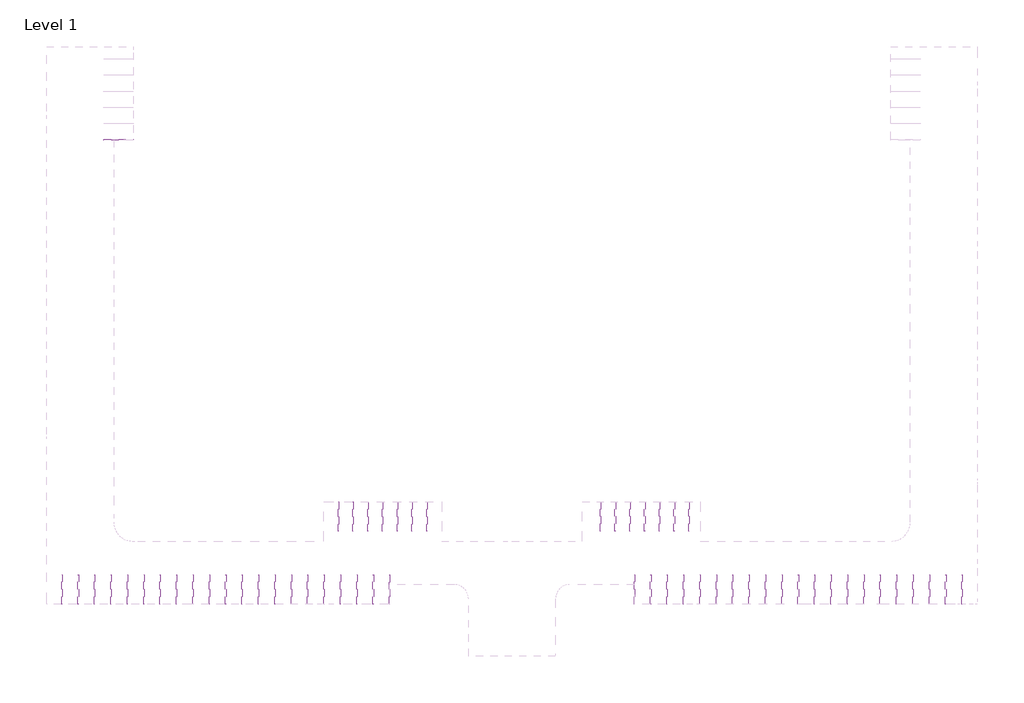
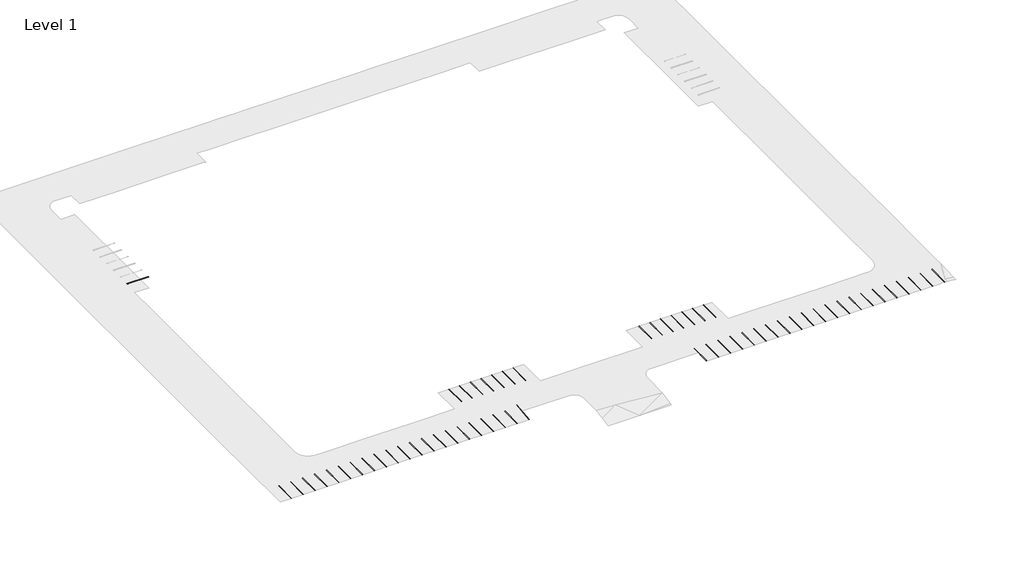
# One storey, part 1 of 2: 57 proxies.
"""IFC4 building model written with IfcOpenShell, lengths in millimetres."""

from ifc_helpers import new_model, si_unit, origin, place, context, project, spatial, transform, mapped, element, save
from components import parking_space_9_x_18_90_deg_9fe051ab, parking_space_9_x_18_90_deg_b8b21359

model = new_model("IFC4")

# Units and contexts
model_context = context("Model", 3, world=origin())
ifc_project = project(units=[si_unit("LENGTHUNIT", "METRE", prefix="MILLI")], contexts=[model_context])

# Site, building, storey
site = spatial("IfcSite", under=ifc_project)
building = spatial("IfcBuilding", under=site)
storey = spatial("IfcBuildingStorey", under=building, Name="Level 1", Elevation=0.0)

# Proxies
placement = place(None, origin())
parking_space_9_x_18_90_deg_shape = parking_space_9_x_18_90_deg_9fe051ab(model_context)
element("IfcBuildingElementProxy", 1, Name="Parking Space : 9' x 18' - 90 deg", ObjectType="Parking Space : 9' x 18' - 90 deg", at=placement, inside=storey, context=model_context, shape_type="MappedRepresentation", body=[
    mapped(parking_space_9_x_18_90_deg_shape, transform((95756.0170127, -132718.9664068, 3048.7803686), x_axis=(-1.0, 0.0, 0.0), y_axis=(0.0, -1.0, 0.0), z_axis=(0.0, 0.0, 1.0))),
])
element("IfcBuildingElementProxy", 2, Name="Parking Space : 9' x 18' - 90 deg", ObjectType="Parking Space : 9' x 18' - 90 deg", at=placement, inside=storey, context=model_context, shape_type="MappedRepresentation", body=[
    mapped(parking_space_9_x_18_90_deg_shape, transform((98499.2170127, -132718.9664068, 3048.7803686), x_axis=(-1.0, 0.0, 0.0), y_axis=(0.0, -1.0, 0.0), z_axis=(0.0, 0.0, 1.0))),
])
element("IfcBuildingElementProxy", 3, Name="Parking Space : 9' x 18' - 90 deg", ObjectType="Parking Space : 9' x 18' - 90 deg", at=placement, inside=storey, context=model_context, shape_type="MappedRepresentation", body=[
    mapped(parking_space_9_x_18_90_deg_shape, transform((101242.4170127, -132718.9664068, 3048.7803686), x_axis=(-1.0, 0.0, 0.0), y_axis=(0.0, -1.0, 0.0), z_axis=(0.0, 0.0, 1.0))),
])
element("IfcBuildingElementProxy", 4, Name="Parking Space : 9' x 18' - 90 deg", ObjectType="Parking Space : 9' x 18' - 90 deg", at=placement, inside=storey, context=model_context, shape_type="MappedRepresentation", body=[
    mapped(parking_space_9_x_18_90_deg_shape, transform((103985.6170127, -132718.9664068, 3048.7803686), x_axis=(-1.0, 0.0, 0.0), y_axis=(0.0, -1.0, 0.0), z_axis=(0.0, 0.0, 1.0))),
])
element("IfcBuildingElementProxy", 5, Name="Parking Space : 9' x 18' - 90 deg", ObjectType="Parking Space : 9' x 18' - 90 deg", at=placement, inside=storey, context=model_context, shape_type="MappedRepresentation", body=[
    mapped(parking_space_9_x_18_90_deg_shape, transform((106728.8170127, -132718.9664068, 3048.7803686), x_axis=(-1.0, 0.0, 0.0), y_axis=(0.0, -1.0, 0.0), z_axis=(0.0, 0.0, 1.0))),
])
element("IfcBuildingElementProxy", 6, Name="Parking Space : 9' x 18' - 90 deg", ObjectType="Parking Space : 9' x 18' - 90 deg", at=placement, inside=storey, context=model_context, shape_type="MappedRepresentation", body=[
    mapped(parking_space_9_x_18_90_deg_shape, transform((109472.0170127, -132718.9664068, 3048.7803686), x_axis=(-1.0, 0.0, 0.0), y_axis=(0.0, -1.0, 0.0), z_axis=(0.0, 0.0, 1.0))),
])
element("IfcBuildingElementProxy", 7, Name="Parking Space : 9' x 18' - 90 deg", ObjectType="Parking Space : 9' x 18' - 90 deg", at=placement, inside=storey, context=model_context, shape_type="MappedRepresentation", body=[
    mapped(parking_space_9_x_18_90_deg_shape, transform((112215.2170127, -132718.9664068, 3048.7803686), x_axis=(-1.0, 0.0, 0.0), y_axis=(0.0, -1.0, 0.0), z_axis=(0.0, 0.0, 1.0))),
])
element("IfcBuildingElementProxy", 8, Name="Parking Space : 9' x 18' - 90 deg", ObjectType="Parking Space : 9' x 18' - 90 deg", at=placement, inside=storey, context=model_context, shape_type="MappedRepresentation", body=[
    mapped(parking_space_9_x_18_90_deg_shape, transform((8862.6170127, -65417.6134629, 6097.5607373), x_axis=(0.0, 1.0, 0.0), y_axis=(-1.0, 0.0, 0.0), z_axis=(0.0, 0.0, 1.0))),
])
element("IfcBuildingElementProxy", 9, Name="Parking Space : 9' x 18' - 90 deg", ObjectType="Parking Space : 9' x 18' - 90 deg", at=placement, inside=storey, context=model_context, shape_type="MappedRepresentation", body=[
    mapped(parking_space_9_x_18_90_deg_shape, transform((163015.2170127, -151779.2506241, 3067.0768021), x_axis=(0.9982600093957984, 0.0, -0.05896569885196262), y_axis=(0.0013117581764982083, 0.9997525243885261, 0.022207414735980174), z_axis=(0.058951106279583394, -0.022246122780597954, 0.9980129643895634))),
])
element("IfcBuildingElementProxy", 10, Name="Parking Space : 9' x 18' - 90 deg", ObjectType="Parking Space : 9' x 18' - 90 deg", at=placement, inside=storey, context=model_context, shape_type="MappedRepresentation", body=[
    mapped(parking_space_9_x_18_90_deg_shape, transform((159967.2170127, -151779.2506241, 3048.7803686), x_axis=(1.0, 0.0, 0.0), y_axis=(0.0, 1.0, 0.0), z_axis=(0.0, 0.0, 1.0))),
])
element("IfcBuildingElementProxy", 11, Name="Parking Space : 9' x 18' - 90 deg", ObjectType="Parking Space : 9' x 18' - 90 deg", at=placement, inside=storey, context=model_context, shape_type="MappedRepresentation", body=[
    mapped(parking_space_9_x_18_90_deg_shape, transform((156919.2170127, -151779.2506241, 3048.7803686), x_axis=(1.0, 0.0, 0.0), y_axis=(0.0, 1.0, 0.0), z_axis=(0.0, 0.0, 1.0))),
])
element("IfcBuildingElementProxy", 12, Name="Parking Space : 9' x 18' - 90 deg", ObjectType="Parking Space : 9' x 18' - 90 deg", at=placement, inside=storey, context=model_context, shape_type="MappedRepresentation", body=[
    mapped(parking_space_9_x_18_90_deg_shape, transform((153871.2170127, -151779.2506241, 3048.7803686), x_axis=(1.0, 0.0, 0.0), y_axis=(0.0, 1.0, 0.0), z_axis=(0.0, 0.0, 1.0))),
])
element("IfcBuildingElementProxy", 13, Name="Parking Space : 9' x 18' - 90 deg", ObjectType="Parking Space : 9' x 18' - 90 deg", at=placement, inside=storey, context=model_context, shape_type="MappedRepresentation", body=[
    mapped(parking_space_9_x_18_90_deg_shape, transform((150823.2170127, -151779.2506241, 3048.7803686), x_axis=(1.0, 0.0, 0.0), y_axis=(0.0, 1.0, 0.0), z_axis=(0.0, 0.0, 1.0))),
])
element("IfcBuildingElementProxy", 14, Name="Parking Space : 9' x 18' - 90 deg", ObjectType="Parking Space : 9' x 18' - 90 deg", at=placement, inside=storey, context=model_context, shape_type="MappedRepresentation", body=[
    mapped(parking_space_9_x_18_90_deg_shape, transform((147775.2170127, -151779.2506241, 3048.7803686), x_axis=(1.0, 0.0, 0.0), y_axis=(0.0, 1.0, 0.0), z_axis=(0.0, 0.0, 1.0))),
])
element("IfcBuildingElementProxy", 15, Name="Parking Space : 9' x 18' - 90 deg", ObjectType="Parking Space : 9' x 18' - 90 deg", at=placement, inside=storey, context=model_context, shape_type="MappedRepresentation", body=[
    mapped(parking_space_9_x_18_90_deg_shape, transform((144727.2170127, -151779.2506241, 3048.7803686), x_axis=(1.0, 0.0, 0.0), y_axis=(0.0, 1.0, 0.0), z_axis=(0.0, 0.0, 1.0))),
])
element("IfcBuildingElementProxy", 16, Name="Parking Space : 9' x 18' - 90 deg", ObjectType="Parking Space : 9' x 18' - 90 deg", at=placement, inside=storey, context=model_context, shape_type="MappedRepresentation", body=[
    mapped(parking_space_9_x_18_90_deg_shape, transform((141679.2170127, -151779.2506241, 3048.7803686), x_axis=(1.0, 0.0, 0.0), y_axis=(0.0, 1.0, 0.0), z_axis=(0.0, 0.0, 1.0))),
])
element("IfcBuildingElementProxy", 17, Name="Parking Space : 9' x 18' - 90 deg", ObjectType="Parking Space : 9' x 18' - 90 deg", at=placement, inside=storey, context=model_context, shape_type="MappedRepresentation", body=[
    mapped(parking_space_9_x_18_90_deg_shape, transform((138631.2170127, -151779.2506241, 3048.7803686), x_axis=(1.0, 0.0, 0.0), y_axis=(0.0, 1.0, 0.0), z_axis=(0.0, 0.0, 1.0))),
])
element("IfcBuildingElementProxy", 18, Name="Parking Space : 9' x 18' - 90 deg", ObjectType="Parking Space : 9' x 18' - 90 deg", at=placement, inside=storey, context=model_context, shape_type="MappedRepresentation", body=[
    mapped(parking_space_9_x_18_90_deg_shape, transform((135583.2170127, -151779.2506241, 3048.7803686), x_axis=(1.0, 0.0, 0.0), y_axis=(0.0, 1.0, 0.0), z_axis=(0.0, 0.0, 1.0))),
])
element("IfcBuildingElementProxy", 19, Name="Parking Space : 9' x 18' - 90 deg", ObjectType="Parking Space : 9' x 18' - 90 deg", at=placement, inside=storey, context=model_context, shape_type="MappedRepresentation", body=[
    mapped(parking_space_9_x_18_90_deg_shape, transform((132535.2170127, -151779.2506241, 3048.7803686), x_axis=(1.0, 0.0, 0.0), y_axis=(0.0, 1.0, 0.0), z_axis=(0.0, 0.0, 1.0))),
])
element("IfcBuildingElementProxy", 20, Name="Parking Space : 9' x 18' - 90 deg", ObjectType="Parking Space : 9' x 18' - 90 deg", at=placement, inside=storey, context=model_context, shape_type="MappedRepresentation", body=[
    mapped(parking_space_9_x_18_90_deg_shape, transform((129487.2170127, -151779.2506241, 3048.7803686), x_axis=(1.0, 0.0, 0.0), y_axis=(0.0, 1.0, 0.0), z_axis=(0.0, 0.0, 1.0))),
])
element("IfcBuildingElementProxy", 21, Name="Parking Space : 9' x 18' - 90 deg", ObjectType="Parking Space : 9' x 18' - 90 deg", at=placement, inside=storey, context=model_context, shape_type="MappedRepresentation", body=[
    mapped(parking_space_9_x_18_90_deg_shape, transform((126439.2170127, -151779.2506241, 3048.7803686), x_axis=(1.0, 0.0, 0.0), y_axis=(0.0, 1.0, 0.0), z_axis=(0.0, 0.0, 1.0))),
])
element("IfcBuildingElementProxy", 22, Name="Parking Space : 9' x 18' - 90 deg", ObjectType="Parking Space : 9' x 18' - 90 deg", at=placement, inside=storey, context=model_context, shape_type="MappedRepresentation", body=[
    mapped(parking_space_9_x_18_90_deg_shape, transform((123391.2170127, -151779.2506241, 3048.7803686), x_axis=(1.0, 0.0, 0.0), y_axis=(0.0, 1.0, 0.0), z_axis=(0.0, 0.0, 1.0))),
])
element("IfcBuildingElementProxy", 23, Name="Parking Space : 9' x 18' - 90 deg", ObjectType="Parking Space : 9' x 18' - 90 deg", at=placement, inside=storey, context=model_context, shape_type="MappedRepresentation", body=[
    mapped(parking_space_9_x_18_90_deg_shape, transform((120343.2170127, -151779.2506241, 3048.7803686), x_axis=(1.0, 0.0, 0.0), y_axis=(0.0, 1.0, 0.0), z_axis=(0.0, 0.0, 1.0))),
])
element("IfcBuildingElementProxy", 24, Name="Parking Space : 9' x 18' - 90 deg", ObjectType="Parking Space : 9' x 18' - 90 deg", at=placement, inside=storey, context=model_context, shape_type="MappedRepresentation", body=[
    mapped(parking_space_9_x_18_90_deg_shape, transform((117295.2170127, -151779.2506241, 3048.7803686), x_axis=(1.0, 0.0, 0.0), y_axis=(0.0, 1.0, 0.0), z_axis=(0.0, 0.0, 1.0))),
])
element("IfcBuildingElementProxy", 25, Name="Parking Space : 9' x 18' - 90 deg", ObjectType="Parking Space : 9' x 18' - 90 deg", at=placement, inside=storey, context=model_context, shape_type="MappedRepresentation", body=[
    mapped(parking_space_9_x_18_90_deg_shape, transform((114247.2170127, -151779.2506241, 3048.7803686), x_axis=(1.0, 0.0, 0.0), y_axis=(0.0, 1.0, 0.0), z_axis=(0.0, 0.0, 1.0))),
])
element("IfcBuildingElementProxy", 26, Name="Parking Space : 9' x 18' - 90 deg", ObjectType="Parking Space : 9' x 18' - 90 deg", at=placement, inside=storey, context=model_context, shape_type="MappedRepresentation", body=[
    mapped(parking_space_9_x_18_90_deg_shape, transform((111199.2170127, -151779.2506241, 3048.7803686), x_axis=(1.0, 0.0, 0.0), y_axis=(0.0, 1.0, 0.0), z_axis=(0.0, 0.0, 1.0))),
])
element("IfcBuildingElementProxy", 27, Name="Parking Space : 9' x 18' - 90 deg", ObjectType="Parking Space : 9' x 18' - 90 deg", at=placement, inside=storey, context=model_context, shape_type="MappedRepresentation", body=[
    mapped(parking_space_9_x_18_90_deg_shape, transform((108151.2170127, -151779.2506241, 3048.7803686), x_axis=(1.0, 0.0, 0.0), y_axis=(0.0, 1.0, 0.0), z_axis=(0.0, 0.0, 1.0))),
])
element("IfcBuildingElementProxy", 28, Name="Parking Space : 9' x 18' - 90 deg", ObjectType="Parking Space : 9' x 18' - 90 deg", at=placement, inside=storey, context=model_context, shape_type="MappedRepresentation", body=[
    mapped(parking_space_9_x_18_90_deg_shape, transform((105103.2170127, -151779.2506241, 3048.7803686), x_axis=(1.0, 0.0, 0.0), y_axis=(0.0, 1.0, 0.0), z_axis=(0.0, 0.0, 1.0))),
])
element("IfcBuildingElementProxy", 29, Name="Parking Space : 9' x 18' - 90 deg", ObjectType="Parking Space : 9' x 18' - 90 deg", at=placement, inside=storey, context=model_context, shape_type="MappedRepresentation", body=[
    mapped(parking_space_9_x_18_90_deg_shape, transform((102055.2170127, -151779.2506241, 3048.7803686), x_axis=(1.0, 0.0, 0.0), y_axis=(0.0, 1.0, 0.0), z_axis=(0.0, 0.0, 1.0))),
])
parking_space_9_x_18_90_deg_2_shape = parking_space_9_x_18_90_deg_b8b21359(model_context)
element("IfcBuildingElementProxy", 30, Name="Parking Space : 9' x 18' - 90 deg", ObjectType="Parking Space : 9' x 18' - 90 deg", at=placement, inside=storey, context=model_context, shape_type="MappedRepresentation", body=[
    mapped(parking_space_9_x_18_90_deg_2_shape, transform((63447.2170127, -132769.7664068, 3048.7803686), x_axis=(1.0, 0.0, 0.0), y_axis=(0.0, 1.0, 0.0), z_axis=(0.0, 0.0, 1.0))),
])
element("IfcBuildingElementProxy", 31, Name="Parking Space : 9' x 18' - 90 deg", ObjectType="Parking Space : 9' x 18' - 90 deg", at=placement, inside=storey, context=model_context, shape_type="MappedRepresentation", body=[
    mapped(parking_space_9_x_18_90_deg_2_shape, transform((60704.0170127, -132769.7664068, 3048.7803686), x_axis=(1.0, 0.0, 0.0), y_axis=(0.0, 1.0, 0.0), z_axis=(0.0, 0.0, 1.0))),
])
element("IfcBuildingElementProxy", 32, Name="Parking Space : 9' x 18' - 90 deg", ObjectType="Parking Space : 9' x 18' - 90 deg", at=placement, inside=storey, context=model_context, shape_type="MappedRepresentation", body=[
    mapped(parking_space_9_x_18_90_deg_2_shape, transform((57960.8170127, -132769.7664068, 3048.7803686), x_axis=(1.0, 0.0, 0.0), y_axis=(0.0, 1.0, 0.0), z_axis=(0.0, 0.0, 1.0))),
])
element("IfcBuildingElementProxy", 33, Name="Parking Space : 9' x 18' - 90 deg", ObjectType="Parking Space : 9' x 18' - 90 deg", at=placement, inside=storey, context=model_context, shape_type="MappedRepresentation", body=[
    mapped(parking_space_9_x_18_90_deg_2_shape, transform((55217.6170127, -132769.7664068, 3048.7803686), x_axis=(1.0, 0.0, 0.0), y_axis=(0.0, 1.0, 0.0), z_axis=(0.0, 0.0, 1.0))),
])
element("IfcBuildingElementProxy", 34, Name="Parking Space : 9' x 18' - 90 deg", ObjectType="Parking Space : 9' x 18' - 90 deg", at=placement, inside=storey, context=model_context, shape_type="MappedRepresentation", body=[
    mapped(parking_space_9_x_18_90_deg_2_shape, transform((52474.4170127, -132769.7664068, 3048.7803686), x_axis=(1.0, 0.0, 0.0), y_axis=(0.0, 1.0, 0.0), z_axis=(0.0, 0.0, 1.0))),
])
element("IfcBuildingElementProxy", 35, Name="Parking Space : 9' x 18' - 90 deg", ObjectType="Parking Space : 9' x 18' - 90 deg", at=placement, inside=storey, context=model_context, shape_type="MappedRepresentation", body=[
    mapped(parking_space_9_x_18_90_deg_2_shape, transform((49731.2170127, -132769.7664068, 3048.7803686), x_axis=(1.0, 0.0, 0.0), y_axis=(0.0, 1.0, 0.0), z_axis=(0.0, 0.0, 1.0))),
])
element("IfcBuildingElementProxy", 36, Name="Parking Space : 9' x 18' - 90 deg", ObjectType="Parking Space : 9' x 18' - 90 deg", at=placement, inside=storey, context=model_context, shape_type="MappedRepresentation", body=[
    mapped(parking_space_9_x_18_90_deg_2_shape, transform((46988.0170127, -132769.7664068, 3048.7803686), x_axis=(1.0, 0.0, 0.0), y_axis=(0.0, 1.0, 0.0), z_axis=(0.0, 0.0, 1.0))),
])
element("IfcBuildingElementProxy", 37, Name="Parking Space : 9' x 18' - 90 deg", ObjectType="Parking Space : 9' x 18' - 90 deg", at=placement, inside=storey, context=model_context, shape_type="MappedRepresentation", body=[
    mapped(parking_space_9_x_18_90_deg_2_shape, transform((-4421.5829873, -151779.2506241, 3048.7803686), x_axis=(-1.0, 0.0, 0.0), y_axis=(0.0, -1.0, 0.0), z_axis=(0.0, 0.0, 1.0))),
])
element("IfcBuildingElementProxy", 38, Name="Parking Space : 9' x 18' - 90 deg", ObjectType="Parking Space : 9' x 18' - 90 deg", at=placement, inside=storey, context=model_context, shape_type="MappedRepresentation", body=[
    mapped(parking_space_9_x_18_90_deg_2_shape, transform((-1373.5829873, -151779.2506241, 3048.7803686), x_axis=(-1.0, 0.0, 0.0), y_axis=(0.0, -1.0, 0.0), z_axis=(0.0, 0.0, 1.0))),
])
element("IfcBuildingElementProxy", 39, Name="Parking Space : 9' x 18' - 90 deg", ObjectType="Parking Space : 9' x 18' - 90 deg", at=placement, inside=storey, context=model_context, shape_type="MappedRepresentation", body=[
    mapped(parking_space_9_x_18_90_deg_2_shape, transform((1674.4170127, -151779.2506241, 3048.7803686), x_axis=(-1.0, 0.0, 0.0), y_axis=(0.0, -1.0, 0.0), z_axis=(0.0, 0.0, 1.0))),
])
element("IfcBuildingElementProxy", 40, Name="Parking Space : 9' x 18' - 90 deg", ObjectType="Parking Space : 9' x 18' - 90 deg", at=placement, inside=storey, context=model_context, shape_type="MappedRepresentation", body=[
    mapped(parking_space_9_x_18_90_deg_2_shape, transform((4722.4170127, -151779.2506241, 3048.7803686), x_axis=(-1.0, 0.0, 0.0), y_axis=(0.0, -1.0, 0.0), z_axis=(0.0, 0.0, 1.0))),
])
element("IfcBuildingElementProxy", 41, Name="Parking Space : 9' x 18' - 90 deg", ObjectType="Parking Space : 9' x 18' - 90 deg", at=placement, inside=storey, context=model_context, shape_type="MappedRepresentation", body=[
    mapped(parking_space_9_x_18_90_deg_2_shape, transform((7770.4170127, -151779.2506241, 3048.7803686), x_axis=(-1.0, 0.0, 0.0), y_axis=(0.0, -1.0, 0.0), z_axis=(0.0, 0.0, 1.0))),
])
element("IfcBuildingElementProxy", 42, Name="Parking Space : 9' x 18' - 90 deg", ObjectType="Parking Space : 9' x 18' - 90 deg", at=placement, inside=storey, context=model_context, shape_type="MappedRepresentation", body=[
    mapped(parking_space_9_x_18_90_deg_2_shape, transform((10818.4170127, -151779.2506241, 3048.7803686), x_axis=(-1.0, 0.0, 0.0), y_axis=(0.0, -1.0, 0.0), z_axis=(0.0, 0.0, 1.0))),
])
element("IfcBuildingElementProxy", 43, Name="Parking Space : 9' x 18' - 90 deg", ObjectType="Parking Space : 9' x 18' - 90 deg", at=placement, inside=storey, context=model_context, shape_type="MappedRepresentation", body=[
    mapped(parking_space_9_x_18_90_deg_2_shape, transform((13866.4170127, -151779.2506241, 3048.7803686), x_axis=(-1.0, 0.0, 0.0), y_axis=(0.0, -1.0, 0.0), z_axis=(0.0, 0.0, 1.0))),
])
element("IfcBuildingElementProxy", 44, Name="Parking Space : 9' x 18' - 90 deg", ObjectType="Parking Space : 9' x 18' - 90 deg", at=placement, inside=storey, context=model_context, shape_type="MappedRepresentation", body=[
    mapped(parking_space_9_x_18_90_deg_2_shape, transform((16914.4170127, -151779.2506241, 3048.7803686), x_axis=(-1.0, 0.0, 0.0), y_axis=(0.0, -1.0, 0.0), z_axis=(0.0, 0.0, 1.0))),
])
element("IfcBuildingElementProxy", 45, Name="Parking Space : 9' x 18' - 90 deg", ObjectType="Parking Space : 9' x 18' - 90 deg", at=placement, inside=storey, context=model_context, shape_type="MappedRepresentation", body=[
    mapped(parking_space_9_x_18_90_deg_2_shape, transform((19962.4170127, -151779.2506241, 3048.7803686), x_axis=(-1.0, 0.0, 0.0), y_axis=(0.0, -1.0, 0.0), z_axis=(0.0, 0.0, 1.0))),
])
element("IfcBuildingElementProxy", 46, Name="Parking Space : 9' x 18' - 90 deg", ObjectType="Parking Space : 9' x 18' - 90 deg", at=placement, inside=storey, context=model_context, shape_type="MappedRepresentation", body=[
    mapped(parking_space_9_x_18_90_deg_2_shape, transform((23010.4170127, -151779.2506241, 3048.7803686), x_axis=(-1.0, 0.0, 0.0), y_axis=(0.0, -1.0, 0.0), z_axis=(0.0, 0.0, 1.0))),
])
element("IfcBuildingElementProxy", 47, Name="Parking Space : 9' x 18' - 90 deg", ObjectType="Parking Space : 9' x 18' - 90 deg", at=placement, inside=storey, context=model_context, shape_type="MappedRepresentation", body=[
    mapped(parking_space_9_x_18_90_deg_2_shape, transform((26058.4170127, -151779.2506241, 3048.7803686), x_axis=(-1.0, 0.0, 0.0), y_axis=(0.0, -1.0, 0.0), z_axis=(0.0, 0.0, 1.0))),
])
element("IfcBuildingElementProxy", 48, Name="Parking Space : 9' x 18' - 90 deg", ObjectType="Parking Space : 9' x 18' - 90 deg", at=placement, inside=storey, context=model_context, shape_type="MappedRepresentation", body=[
    mapped(parking_space_9_x_18_90_deg_2_shape, transform((29106.4170127, -151779.2506241, 3048.7803686), x_axis=(-1.0, 0.0, 0.0), y_axis=(0.0, -1.0, 0.0), z_axis=(0.0, 0.0, 1.0))),
])
element("IfcBuildingElementProxy", 49, Name="Parking Space : 9' x 18' - 90 deg", ObjectType="Parking Space : 9' x 18' - 90 deg", at=placement, inside=storey, context=model_context, shape_type="MappedRepresentation", body=[
    mapped(parking_space_9_x_18_90_deg_2_shape, transform((32154.4170127, -151779.2506241, 3048.7803686), x_axis=(-1.0, 0.0, 0.0), y_axis=(0.0, -1.0, 0.0), z_axis=(0.0, 0.0, 1.0))),
])
element("IfcBuildingElementProxy", 50, Name="Parking Space : 9' x 18' - 90 deg", ObjectType="Parking Space : 9' x 18' - 90 deg", at=placement, inside=storey, context=model_context, shape_type="MappedRepresentation", body=[
    mapped(parking_space_9_x_18_90_deg_2_shape, transform((35202.4170127, -151779.2506241, 3048.7803686), x_axis=(-1.0, 0.0, 0.0), y_axis=(0.0, -1.0, 0.0), z_axis=(0.0, 0.0, 1.0))),
])
element("IfcBuildingElementProxy", 51, Name="Parking Space : 9' x 18' - 90 deg", ObjectType="Parking Space : 9' x 18' - 90 deg", at=placement, inside=storey, context=model_context, shape_type="MappedRepresentation", body=[
    mapped(parking_space_9_x_18_90_deg_2_shape, transform((38250.4170127, -151779.2506241, 3048.7803686), x_axis=(-1.0, 0.0, 0.0), y_axis=(0.0, -1.0, 0.0), z_axis=(0.0, 0.0, 1.0))),
])
element("IfcBuildingElementProxy", 52, Name="Parking Space : 9' x 18' - 90 deg", ObjectType="Parking Space : 9' x 18' - 90 deg", at=placement, inside=storey, context=model_context, shape_type="MappedRepresentation", body=[
    mapped(parking_space_9_x_18_90_deg_2_shape, transform((41298.4170127, -151779.2506241, 3048.7803686), x_axis=(-1.0, 0.0, 0.0), y_axis=(0.0, -1.0, 0.0), z_axis=(0.0, 0.0, 1.0))),
])
element("IfcBuildingElementProxy", 53, Name="Parking Space : 9' x 18' - 90 deg", ObjectType="Parking Space : 9' x 18' - 90 deg", at=placement, inside=storey, context=model_context, shape_type="MappedRepresentation", body=[
    mapped(parking_space_9_x_18_90_deg_2_shape, transform((44346.4170127, -151779.2506241, 3048.7803686), x_axis=(-1.0, 0.0, 0.0), y_axis=(0.0, -1.0, 0.0), z_axis=(0.0, 0.0, 1.0))),
])
element("IfcBuildingElementProxy", 54, Name="Parking Space : 9' x 18' - 90 deg", ObjectType="Parking Space : 9' x 18' - 90 deg", at=placement, inside=storey, context=model_context, shape_type="MappedRepresentation", body=[
    mapped(parking_space_9_x_18_90_deg_2_shape, transform((47394.4170127, -151779.2506241, 3048.7803686), x_axis=(-1.0, 0.0, 0.0), y_axis=(0.0, -1.0, 0.0), z_axis=(0.0, 0.0, 1.0))),
])
element("IfcBuildingElementProxy", 55, Name="Parking Space : 9' x 18' - 90 deg", ObjectType="Parking Space : 9' x 18' - 90 deg", at=placement, inside=storey, context=model_context, shape_type="MappedRepresentation", body=[
    mapped(parking_space_9_x_18_90_deg_2_shape, transform((50442.4170127, -151779.2506241, 3048.7803686), x_axis=(-1.0, 0.0, 0.0), y_axis=(0.0, -1.0, 0.0), z_axis=(0.0, 0.0, 1.0))),
])
element("IfcBuildingElementProxy", 56, Name="Parking Space : 9' x 18' - 90 deg", ObjectType="Parking Space : 9' x 18' - 90 deg", at=placement, inside=storey, context=model_context, shape_type="MappedRepresentation", body=[
    mapped(parking_space_9_x_18_90_deg_2_shape, transform((53490.4170127, -151779.2506241, 3048.7803686), x_axis=(-1.0, 0.0, 0.0), y_axis=(0.0, -1.0, 0.0), z_axis=(0.0, 0.0, 1.0))),
])
element("IfcBuildingElementProxy", 57, Name="Parking Space : 9' x 18' - 90 deg", ObjectType="Parking Space : 9' x 18' - 90 deg", at=placement, inside=storey, context=model_context, shape_type="MappedRepresentation", body=[
    mapped(parking_space_9_x_18_90_deg_2_shape, transform((56538.4170127, -151779.2506241, 3054.4572177), x_axis=(-0.9999977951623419, 0.0, 0.0020999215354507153), y_axis=(-0.0002459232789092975, -0.9931188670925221, -0.1171104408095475), z_axis=(0.0020854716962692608, -0.11711069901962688, 0.9931166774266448))),
])

save(model, "model.ifc")
